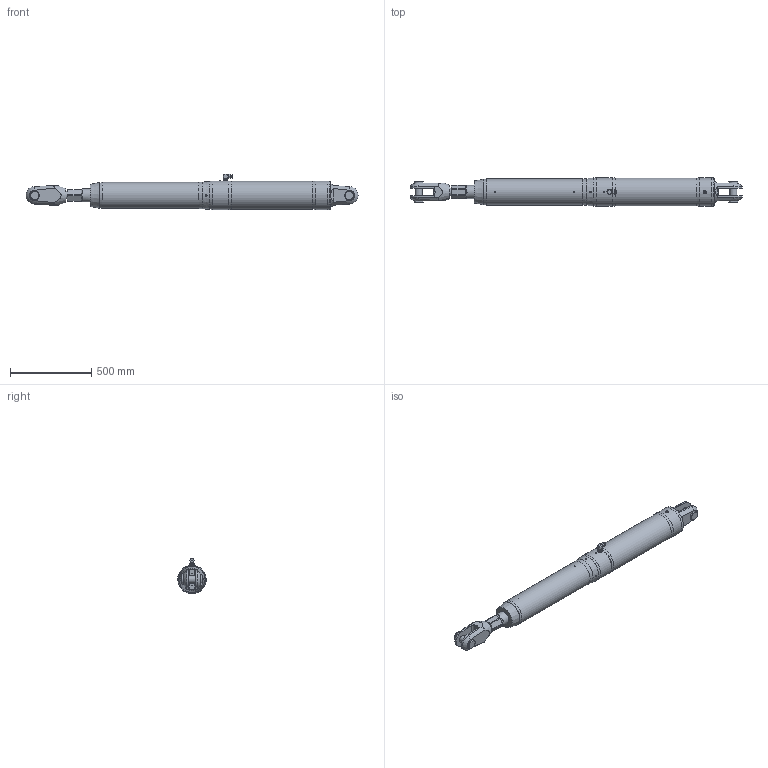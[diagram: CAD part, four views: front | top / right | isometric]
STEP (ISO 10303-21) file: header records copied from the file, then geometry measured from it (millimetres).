
FILE_DESCRIPTION(/* description */ (''),/* implementation_level */ '2;1');
FILE_NAME(/* name */ 'Q:\AA BRAND HYDRAULICS\HYDRAULICS FAMILY DIRECTORY\HYDRAULICS\CYLINDERS\MECHANICAL LOCK RAMS\ALUMINIUM - STAINLESS SINGLE ACTING (-0012 To -0150)\MSA-0150-S0475-NP-71\MSA-0150-S0475-NP-71 (Closed).stp',/* time_stamp */ '2018-04-25T17:31:57+01:00',/* author */ ('Lorena'),/* organization */ (''),/* preprocessor_version */ 'ST-DEVELOPER v17',/* originating_system */ 'Autodesk Inventor 2018',/* authorisation */ '');
FILE_SCHEMA (('AUTOMOTIVE_DESIGN { 1 0 10303 214 3 1 1 }'));
Length unit declared in the file: millimetre
Products named in the file (1): MSA-0150-S0475-NP-71 (Closed)
Bounding box: 2037.42 x 174.4 x 216.3 mm (x, y, z)
Volume: 35729539.7 mm3; surface area: 1081625 mm2
Topology: 2 solids, 4 shells, 495 faces, 1298 edges, 848 vertices
Faces by surface type: plane 281, cone 123, cylinder 77, torus 6, sphere 4, bspline 4
Full cylindrical faces by diameter (mm): 4 x1, 4.2 x4, 5 x2, 7 x1, 9 x1, 9.9 x1, 10 x6, 11.1 x1, 18.9 x1, 19 x3, 19.11 x1, 19.9 x1, 20 x1, 20.9 x2, 22 x2, 24 x2, 27.8 x3, 30 x1, 44.45 x2, 49 x1, 55.562 x2, 80 x2, 81 x2, 84 x1, 160 x1, 171.4 x1, 174.4 x4
Entity records: 17009 total; most frequent: CARTESIAN_POINT 4417, ORIENTED_EDGE 2580, DIRECTION 2514, EDGE_CURVE 1290, AXIS2_PLACEMENT_3D 966, VERTEX_POINT 849, LINE 582, VECTOR 582
